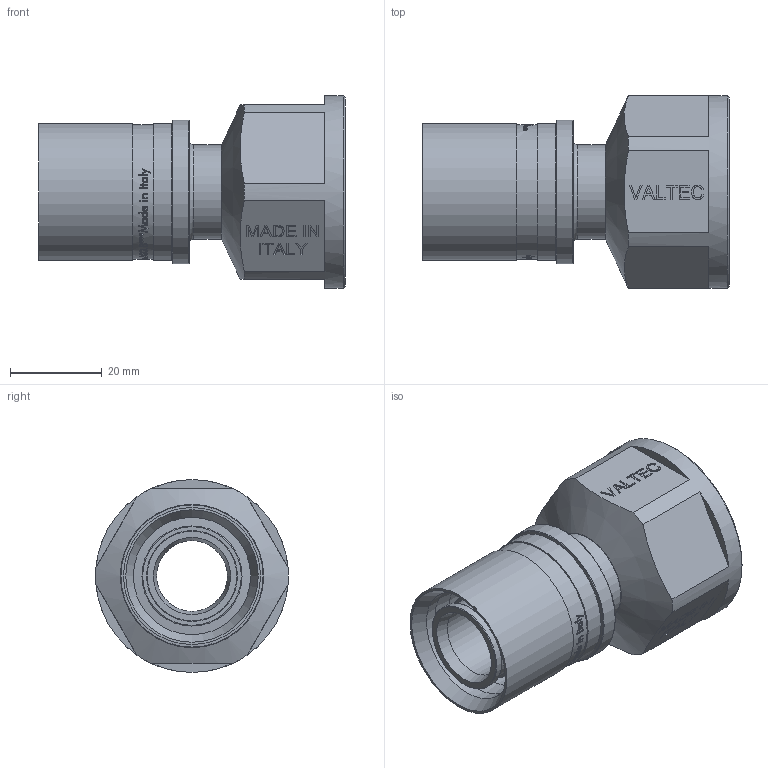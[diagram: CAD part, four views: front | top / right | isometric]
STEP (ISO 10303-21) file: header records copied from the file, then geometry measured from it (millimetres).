
FILE_DESCRIPTION(/* description */ (''),/* implementation_level */ '2;1');
FILE_NAME(/* name */ 'F:\Артём\00000\Работа удаленка\Аксеальные фитинги\VTm.402.BG.002506.stp',/* time_stamp */ '2021-01-25T15:12:16+03:00',/* author */ ('almis'),/* organization */ (''),/* preprocessor_version */ 'ST-DEVELOPER v18',/* originating_system */ 'Autodesk Inventor 2020',/* authorisation */ '');
FILE_SCHEMA (('AUTOMOTIVE_DESIGN { 1 0 10303 214 3 1 1 }'));
Length unit declared in the file: millimetre
Products named in the file (1): VTm.403.BG.001616
Bounding box: 66.81 x 42 x 42 mm (x, y, z)
Volume: 25922.1 mm3; surface area: 20303.5 mm2
Topology: 1 solids, 1 shells, 970 faces, 2662 edges, 1791 vertices
Faces by surface type: plane 431, bspline 414, cylinder 91, torus 24, cone 10
Full cylindrical faces by diameter (mm): 15.4 x1, 18.3 x5, 19.8 x4, 20.5 x1, 21.8 x1, 25.5 x2, 29.3 x1, 29.85 x2, 30.2 x5, 31.2 x1, 34.8 x7, 42 x1
Entity records: 39439 total; most frequent: CARTESIAN_POINT 17212, ORIENTED_EDGE 5324, DIRECTION 3314, EDGE_CURVE 2662, VERTEX_POINT 1791, LINE 1400, VECTOR 1400, EDGE_LOOP 1069
